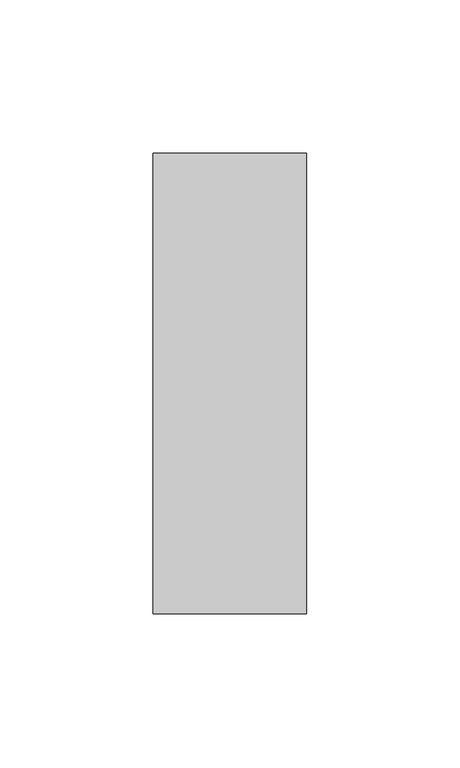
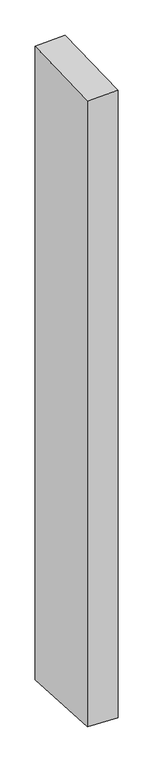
"""IFC4 building model written with IfcOpenShell, lengths in millimetres: member geometry, Прямоугольный импост : 50 x 150 мм."""

from ifc_helpers import new_model, si_unit, origin, place, context, project, spatial, faceted_brep, source, transform, mapped, element, save


def member_61632b54(model_context):
    return source(origin(), model_context, "Body", "Brep", [
        faceted_brep([(-25.0, 75.0, 1.6637845), (25.0, 75.0, 3.3705807), (25.0, 75.0, -1103.2114954), (-25.0, 75.0, -1101.3791323), (-25.0, -75.0, -3.3705807), (-25.0, -75.0, -1092.2920305), (25.0, -75.0, -1.6637845), (25.0, -75.0, -1094.1243936)], [[[0, 1, 2, 3]], [[4, 0, 3, 5]], [[6, 4, 5, 7]], [[1, 6, 7, 2]], [[1, 0, 4, 6]], [[2, 7, 5, 3]]]),
    ])


if __name__ == "__main__":
    model = new_model("IFC4")
    model_context = context("Model", 3, world=origin())
    ifc_project = project(units=[si_unit("LENGTHUNIT", "METRE", prefix="MILLI")], contexts=[model_context])
    site = spatial("IfcSite", under=ifc_project)
    building = spatial("IfcBuilding", under=site)
    placement = place(None, origin())
    member_shape = member_61632b54(model_context)
    element("IfcMember", 1, ObjectType="Прямоугольный импост : 50 x 150 мм", at=placement, inside=building, context=model_context, shape_type="MappedRepresentation", body=[
        mapped(member_shape, transform((0.0, 0.0, 0.0), x_axis=(1.0, 0.0, 0.0), y_axis=(0.0, 1.0, 0.0), z_axis=(0.0, 0.0, 1.0))),
    ])
    save(model, "model.ifc")
